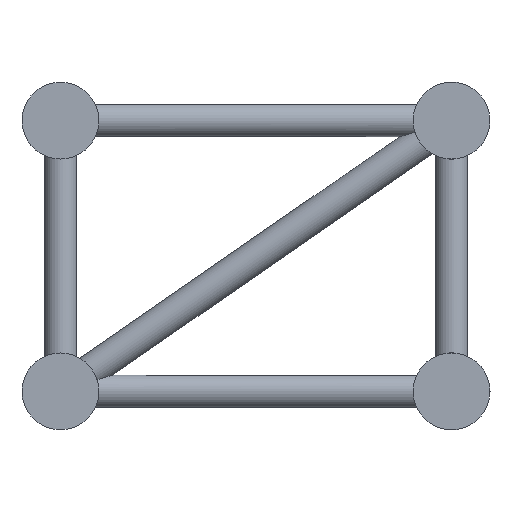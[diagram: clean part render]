
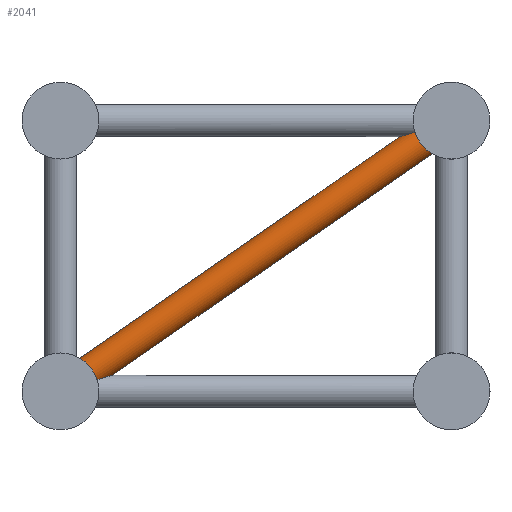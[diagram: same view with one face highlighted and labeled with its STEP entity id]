
A CAD part, left-side view. The second image highlights one B-rep face of the part: STEP entity #2041.
In plain terms, the highlighted cylindrical face has radius 12.5 mm (diameter 25 mm), a full revolution.
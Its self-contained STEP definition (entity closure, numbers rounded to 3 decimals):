
#26=ELLIPSE('',#2245,41.923,12.5);
#27=ELLIPSE('',#2246,41.923,12.5);
#72=FACE_BOUND('',#582,.T.);
#311=CYLINDRICAL_SURFACE('',#2244,12.5);
#396=FACE_OUTER_BOUND('',#581,.T.);
#581=EDGE_LOOP('',(#1475,#1476));
#582=EDGE_LOOP('',(#1477,#1478));
#793=CIRCLE('',#2239,12.5);
#794=CIRCLE('',#2243,12.5);
#946=VERTEX_POINT('',#4166);
#948=VERTEX_POINT('',#4170);
#950=VERTEX_POINT('',#4175);
#952=VERTEX_POINT('',#4179);
#1142=EDGE_CURVE('',#948,#946,#793,.T.);
#1146=EDGE_CURVE('',#952,#950,#794,.T.);
#1147=EDGE_CURVE('',#946,#948,#26,.T.);
#1148=EDGE_CURVE('',#950,#952,#27,.T.);
#1475=ORIENTED_EDGE('',*,*,#1147,.F.);
#1476=ORIENTED_EDGE('',*,*,#1142,.F.);
#1477=ORIENTED_EDGE('',*,*,#1148,.F.);
#1478=ORIENTED_EDGE('',*,*,#1146,.F.);
#2041=ADVANCED_FACE('',(#396,#72),#311,.T.);
#2239=AXIS2_PLACEMENT_3D('',#4172,#2646,#2647);
#2243=AXIS2_PLACEMENT_3D('',#4181,#2655,#2656);
#2244=AXIS2_PLACEMENT_3D('',#4182,#2657,#2658);
#2245=AXIS2_PLACEMENT_3D('',#4183,#2659,#2660);
#2246=AXIS2_PLACEMENT_3D('',#4184,#2661,#2662);
#2646=DIRECTION('center_axis',(0.,0.822,-0.569));
#2647=DIRECTION('ref_axis',(1.,0.,0.));
#2655=DIRECTION('center_axis',(0.,-0.822,
0.569));
#2656=DIRECTION('ref_axis',(1.,0.,0.));
#2657=DIRECTION('center_axis',(0.,-0.822,
0.569));
#2658=DIRECTION('ref_axis',(1.,0.,0.));
#2659=DIRECTION('center_axis',(0.,-0.298,
-0.955));
#2660=DIRECTION('ref_axis',(0.,0.955,-0.298));
#2661=DIRECTION('center_axis',(0.,0.298,
0.955));
#2662=DIRECTION('ref_axis',(0.,0.955,-0.298));
#4166=CARTESIAN_POINT('',(102.177,273.669,-199.087));
#4170=CARTESIAN_POINT('',(82.823,273.669,-199.087));
#4172=CARTESIAN_POINT('Origin',(92.5,278.173,-192.581));
#4175=CARTESIAN_POINT('',(102.177,25.331,-7.913));
#4179=CARTESIAN_POINT('',(82.823,25.331,-7.913));
#4181=CARTESIAN_POINT('Origin',(92.5,20.827,-14.419));
#4182=CARTESIAN_POINT('Origin',(92.5,278.173,-192.581));
#4183=CARTESIAN_POINT('Origin',(92.5,299.,-207.));
#4184=CARTESIAN_POINT('Origin',(92.5,0.,
0.));
